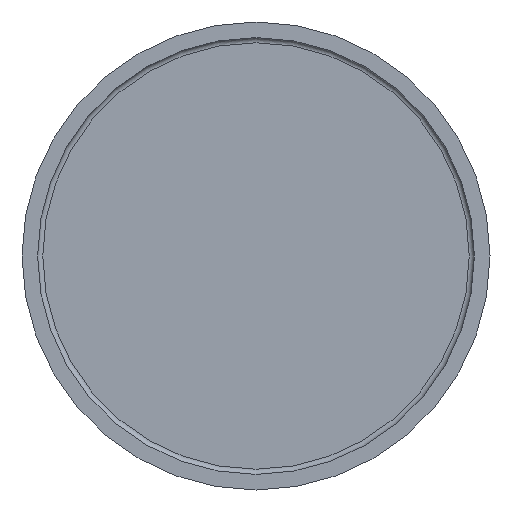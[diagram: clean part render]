
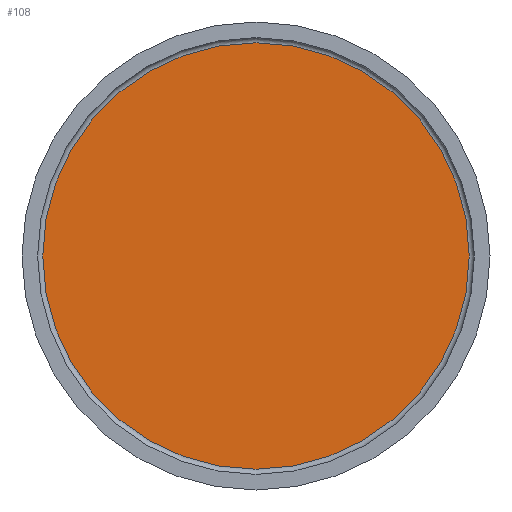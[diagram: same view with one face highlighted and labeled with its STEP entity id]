
A CAD part, left-side view. The second image highlights one B-rep face of the part: STEP entity #108.
In plain terms, the highlighted planar face has unit normal (-1, 0, 0).
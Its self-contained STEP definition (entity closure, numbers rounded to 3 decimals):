
#15=PLANE($,#125);
#31=FACE_OUTER_BOUND($,#44,.T.);
#44=EDGE_LOOP($,(#84));
#56=CIRCLE($,#126,41.);
#64=VERTEX_POINT($,#185);
#72=EDGE_CURVE($,#64,#64,#56,.T.);
#84=ORIENTED_EDGE($,*,*,#72,.F.);
#108=ADVANCED_FACE($,(#31),#15,.T.);
#125=AXIS2_PLACEMENT_3D($,#184,#154,#155);
#126=AXIS2_PLACEMENT_3D($,#186,#156,#157);
#154=DIRECTION('center_axis',(-1.,0.,0.));
#155=DIRECTION('ref_axis',(0.,0.,1.));
#156=DIRECTION('center_axis',(1.,0.,0.));
#157=DIRECTION('ref_axis',(0.,0.,-1.));
#184=CARTESIAN_POINT('Origin',(11.,41.,0.));
#185=CARTESIAN_POINT('',(11.,41.,0.));
#186=CARTESIAN_POINT('Origin',(11.,0.,0.));
